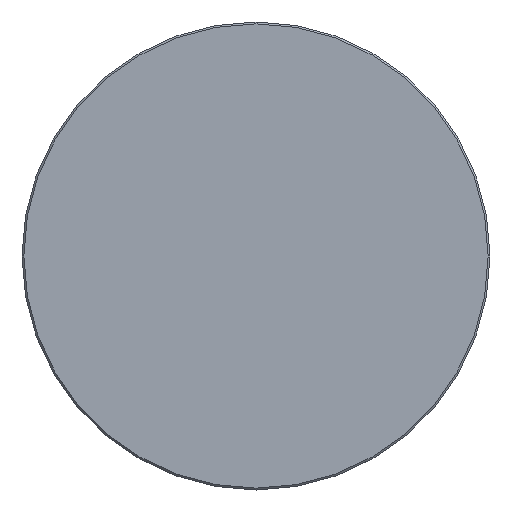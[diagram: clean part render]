
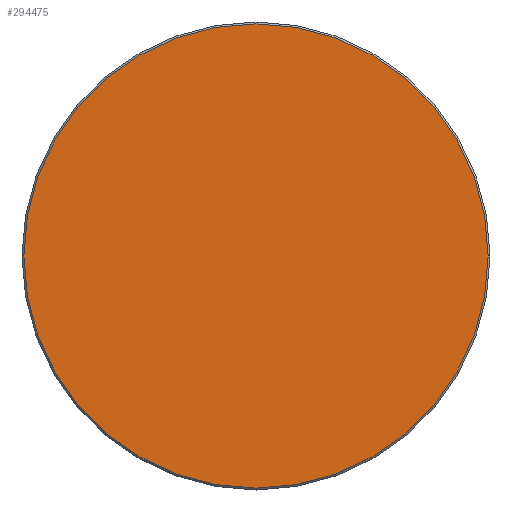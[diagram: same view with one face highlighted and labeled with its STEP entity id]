
A CAD part, top view. The second image highlights one B-rep face of the part: STEP entity #294475.
In plain terms, the highlighted planar face has unit normal (0, 0, 1).
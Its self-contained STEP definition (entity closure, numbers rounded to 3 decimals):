
#294452=CARTESIAN_POINT('',(1008.,264.,751.5));
#294453=VERTEX_POINT('',#294452);
#294454=CARTESIAN_POINT('',(264.,264.,751.5));
#294455=DIRECTION('',(0.0,0.0,-1.0));
#294456=DIRECTION('',(-1.0,0.0,0.0));
#294457=AXIS2_PLACEMENT_3D('',#294454,#294455,#294456);
#294458=CIRCLE('',#294457,744.0);
#294459=EDGE_CURVE('',#294453,#294453,#294458,.T.);
#294467=CARTESIAN_POINT('',(264.,264.,751.5));
#294468=DIRECTION('',(0.0,0.0,-1.0));
#294469=DIRECTION('',(-1.0,0.0,0.0));
#294470=AXIS2_PLACEMENT_3D('',#294467,#294468,#294469);
#294471=PLANE('',#294470);
#294472=ORIENTED_EDGE('',*,*,#294459,.F.);
#294473=EDGE_LOOP('',(#294472));
#294474=FACE_OUTER_BOUND('',#294473,.T.);
#294475=ADVANCED_FACE('',(#294474),#294471,.F.);
